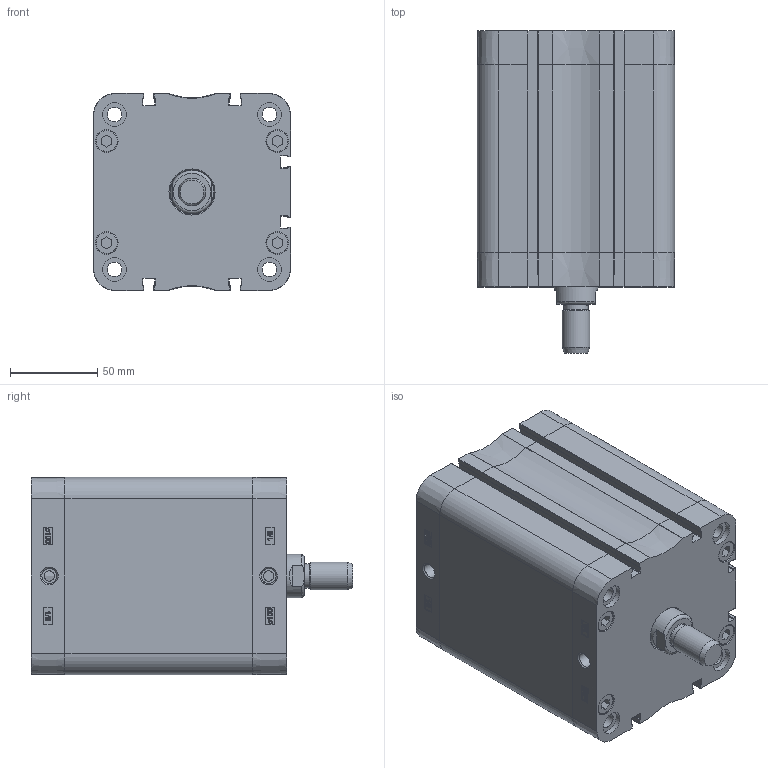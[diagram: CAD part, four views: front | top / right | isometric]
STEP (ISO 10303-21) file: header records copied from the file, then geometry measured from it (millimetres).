
FILE_DESCRIPTION((''),'2;1');
FILE_NAME('T:\Archivio Inventor\- CATALOGHI 2012\SERIE P - NUOVA\PDM\PDM100\PDM100.---.GS.M\PDM100.080.GS.M.stp','2013-02-05T11:43:35',('Administrator'),(''),'Autodesk Inventor 2012','Autodesk Inventor 2012','');
FILE_SCHEMA(('CONFIG_CONTROL_DESIGN'));
Length unit declared in the file: millimetre
Products named in the file (1): PDM100.080.GS.M
Bounding box: 113.3 x 185 x 113.3 mm (x, y, z)
Volume: 766162.4 mm3; surface area: 220890 mm2
Topology: 1 solids, 5 shells, 908 faces, 2136 edges, 1312 vertices
Faces by surface type: plane 371, bspline 226, cylinder 148, cone 81, torus 58, sphere 24
Full cylindrical faces by diameter (mm): 6 x2, 8.3 x4, 8.376 x8, 8.566 x2, 9.976 x4, 12 x1, 12.7 x8, 13.1 x8, 13.5 x8, 14 x1, 16 x1, 25 x1, 25.5 x1, 100 x1, 103.5 x1, 103.7 x1
Entity records: 29561 total; most frequent: CARTESIAN_POINT 9693, ORIENTED_EDGE 4030, DIRECTION 3400, EDGE_CURVE 2015, VERTEX_POINT 1291, AXIS2_PLACEMENT_3D 1208, EDGE_LOOP 1088, VECTOR 984
